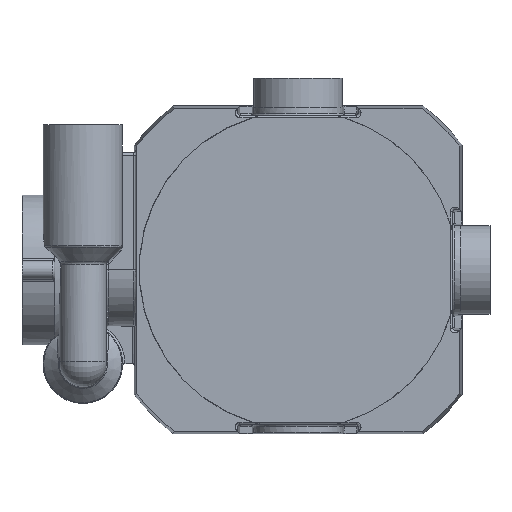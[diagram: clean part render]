
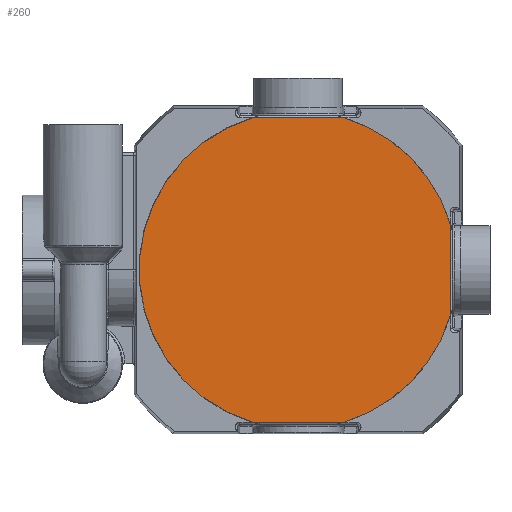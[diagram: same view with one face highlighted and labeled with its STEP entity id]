
A CAD part, front view. The second image highlights one B-rep face of the part: STEP entity #260.
In plain terms, the highlighted planar face has unit normal (0, -1, 0).
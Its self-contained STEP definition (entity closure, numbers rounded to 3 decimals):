
#260=ADVANCED_FACE('',(#3396),#3398,.T.);
#3396=FACE_BOUND('',#3397,.T.);
#3397=EDGE_LOOP('',(#6150,#6151,#6152,#6153,#6154,#6155));
#3398=PLANE('',#3399);
#3399=AXIS2_PLACEMENT_3D('',#3400,#3401,#3402);
#3400=CARTESIAN_POINT('',(0.,-3.,0.));
#3401=DIRECTION('',(0.,-1.,0.));
#3402=DIRECTION('',(1.,0.,0.));
#6150=ORIENTED_EDGE('',*,*,#7336,.T.);
#6151=ORIENTED_EDGE('',*,*,#7168,.T.);
#6152=ORIENTED_EDGE('',*,*,#7335,.T.);
#6153=ORIENTED_EDGE('',*,*,#7337,.T.);
#6154=ORIENTED_EDGE('',*,*,#7338,.T.);
#6155=ORIENTED_EDGE('',*,*,#7339,.T.);
#7168=EDGE_CURVE('',#8241,#8239,#8242,.T.);
#7335=EDGE_CURVE('',#8239,#8521,#8523,.F.);
#7336=EDGE_CURVE('',#8524,#8241,#8525,.T.);
#7337=EDGE_CURVE('',#8521,#8526,#8527,.T.);
#7338=EDGE_CURVE('',#8526,#8528,#8529,.T.);
#7339=EDGE_CURVE('',#8528,#8524,#8530,.T.);
#8239=VERTEX_POINT('',#13205);
#8241=VERTEX_POINT('',#13246);
#8242=CIRCLE('',#13247,33.948);
#8521=VERTEX_POINT('',#14857);
#8523=LINE('',#14898,#14899);
#8524=VERTEX_POINT('',#14901);
#8525=LINE('',#14902,#14903);
#8526=VERTEX_POINT('',#14905);
#8527=CIRCLE('',#14906,33.948);
#8528=VERTEX_POINT('',#14910);
#8529=LINE('',#14911,#14912);
#8530=CIRCLE('',#14914,33.948);
#13205=CARTESIAN_POINT('',(-9.808,-3.,-32.5));
#13246=CARTESIAN_POINT('',(-9.808,-3.,32.5));
#13247=AXIS2_PLACEMENT_3D('',#13248,#13249,#13250);
#13248=CARTESIAN_POINT('',(0.,-3.,0.));
#13249=DIRECTION('',(0.,-1.,0.));
#13250=DIRECTION('',(-0.289,0.,0.957));
#14857=CARTESIAN_POINT('',(9.808,-3.,-32.5));
#14898=CARTESIAN_POINT('',(9.808,-3.,-32.5));
#14899=VECTOR('',#14900,1.);
#14900=DIRECTION('',(-1.,0.,0.));
#14901=CARTESIAN_POINT('',(9.808,-3.,32.5));
#14902=CARTESIAN_POINT('',(9.808,-3.,32.5));
#14903=VECTOR('',#14904,1.);
#14904=DIRECTION('',(-1.,0.,0.));
#14905=CARTESIAN_POINT('',(32.5,-3.,-9.808));
#14906=AXIS2_PLACEMENT_3D('',#14907,#14908,#14909);
#14907=CARTESIAN_POINT('',(0.,-3.,0.));
#14908=DIRECTION('',(0.,-1.,0.));
#14909=DIRECTION('',(0.289,0.,-0.957));
#14910=CARTESIAN_POINT('',(32.5,-3.,9.808));
#14911=CARTESIAN_POINT('',(32.5,-3.,-9.808));
#14912=VECTOR('',#14913,1.);
#14913=DIRECTION('',(0.,0.,1.));
#14914=AXIS2_PLACEMENT_3D('',#14915,#14916,#14917);
#14915=CARTESIAN_POINT('',(0.,-3.,0.));
#14916=DIRECTION('',(0.,-1.,0.));
#14917=DIRECTION('',(0.957,0.,0.289));
